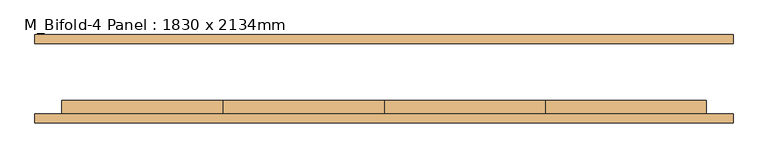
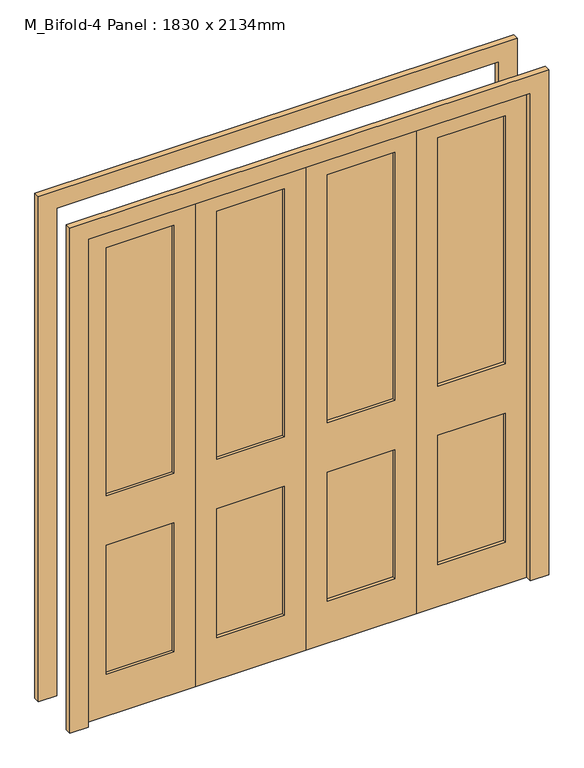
"""IFC4 building model written with IfcOpenShell, lengths in millimetres: door geometry, M_Bifold-4 Panel : 1830 x 2134mm."""

import ifcopenshell
import ifcopenshell.guid

model = None  # the IFC model being written
_history = None  # IfcOwnerHistory: only IFC2X3 demands one
_inside = {}  # id of a spatial element -> (the spatial element, [elements in it])
_under = {}  # id of a project, library or spatial element -> (it, [spatial elements below it])
_declared = {}  # id of a project -> (the project, [libraries it declares])
_typed = {}  # id of a type object -> (the type object, [elements of that type])
_made_of = {}  # id of a material, layer set ... -> (it, [elements and type objects made of it])


def new_model(schema):
    """Start an empty IFC model of exactly this schema.

    Asked for "IFC4X3", IfcOpenShell would pick the latest addendum, in which some entities
    have other attributes; the version numbers below select the first issue.
    IFC2X3 requires an IfcOwnerHistory on every rooted entity: one is made here for all.
    """
    global model, _history
    if schema == "IFC4X3":
        model = ifcopenshell.file(schema_version=(4, 3, 0, 0))
    else:
        model = ifcopenshell.file(schema=schema)
    _inside.clear()
    _under.clear()
    _declared.clear()
    _typed.clear()
    _made_of.clear()
    _history = None
    if model.schema == "IFC2X3":
        org = make("IfcOrganization", Name="unknown")
        user = make(
            "IfcPersonAndOrganization",
            ThePerson=make("IfcPerson", FamilyName="unknown"),
            TheOrganization=org,
        )
        app = make(
            "IfcApplication",
            ApplicationDeveloper=org,
            Version="unknown",
            ApplicationFullName="unknown",
            ApplicationIdentifier="unknown",
        )
        _history = make(
            "IfcOwnerHistory",
            OwningUser=user,
            OwningApplication=app,
            ChangeAction="ADDED",
            CreationDate=0,
        )
    return model


def make(cls, **values):
    """One entity of the class cls with the attributes given. An attribute that is None is left unset."""
    return model.create_entity(
        cls, **{name: value for name, value in values.items() if value is not None}
    )


def rooted(cls, **values):
    """An entity with a GlobalId (a new one), such as an element, a storey or a relation."""
    return make(cls, GlobalId=ifcopenshell.guid.new(), OwnerHistory=_history, **values)


def si_unit(unit_type, name, prefix=None):
    """IfcSIUnit, for example si_unit("LENGTHUNIT", "METRE", prefix="MILLI")."""
    return make("IfcSIUnit", UnitType=unit_type, Prefix=prefix, Name=name)


def assignment(units):
    """IfcUnitAssignment: the units of a project."""
    return None if units is None else make("IfcUnitAssignment", Units=units)


def point(xyz):
    """IfcCartesianPoint."""
    return None if xyz is None else make("IfcCartesianPoint", Coordinates=xyz)


def direction(xyz):
    """IfcDirection."""
    return None if xyz is None else make("IfcDirection", DirectionRatios=xyz)


def frame(location, z_axis=None, x_axis=None):
    """IfcAxis2Placement3D, a coordinate frame: its origin and axes. An axis left out is left unset."""
    return make(
        "IfcAxis2Placement3D",
        Location=point(location),
        Axis=direction(z_axis),
        RefDirection=direction(x_axis),
    )


def origin():
    """The frame at (0, 0, 0) with its axes left unset."""
    return frame((0.0, 0.0, 0.0))


def place(relative_to, where):
    """IfcLocalPlacement: puts the frame where relative to a parent placement (None: the world)."""
    return make(
        "IfcLocalPlacement", PlacementRelTo=relative_to, RelativePlacement=where
    )


def context(
    kind, dimensions, precision=None, world=None, true_north=None, identifier=None
):
    """IfcGeometricRepresentationContext, for example the 3D "Model" context."""
    return make(
        "IfcGeometricRepresentationContext",
        ContextIdentifier=identifier,
        ContextType=kind,
        CoordinateSpaceDimension=dimensions,
        Precision=precision,
        WorldCoordinateSystem=world,
        TrueNorth=true_north,
    )


def project(units=None, contexts=None):
    """IfcProject with its units and contexts."""
    return rooted(
        "IfcProject",
        Name="project",
        RepresentationContexts=contexts,
        UnitsInContext=assignment(units),
    )


def spatial(cls, under=None, at=None, **own):
    """A site, building, storey or space (cls), placed at a placement, below another one or the project."""
    s = rooted(cls, ObjectPlacement=at, **own)
    if under is not None:
        _under.setdefault(under.id(), (under, []))[1].append(s)
    return s


def polyline(points):
    """IfcPolyline through the points."""
    return make("IfcPolyline", Points=[point(p) for p in points])


def outline(outer, holes=None, kind="AREA"):
    """IfcArbitraryClosedProfileDef: a profile drawn as a closed curve; with holes, ...WithVoids."""
    if holes is None:
        return make("IfcArbitraryClosedProfileDef", ProfileType=kind, OuterCurve=outer)
    return make(
        "IfcArbitraryProfileDefWithVoids",
        ProfileType=kind,
        OuterCurve=outer,
        InnerCurves=holes,
    )


def extrude(swept, where, along, depth):
    """IfcExtrudedAreaSolid: the profile swept, set in the frame where, extruded along a direction by depth."""
    return make(
        "IfcExtrudedAreaSolid",
        SweptArea=swept,
        Position=where,
        ExtrudedDirection=direction(along),
        Depth=depth,
    )


def shape(context_of_items, identifier, shape_type, items):
    """IfcShapeRepresentation: the items that make up one representation, for example the "Body"."""
    return make(
        "IfcShapeRepresentation",
        ContextOfItems=context_of_items,
        RepresentationIdentifier=identifier,
        RepresentationType=shape_type,
        Items=items,
    )


def source(mapping_origin, context_of_items, identifier, shape_type, items):
    """IfcRepresentationMap: a shape defined once, which mapped items show again and again."""
    return make(
        "IfcRepresentationMap",
        MappingOrigin=mapping_origin,
        MappedRepresentation=shape(context_of_items, identifier, shape_type, items),
    )


def transform(
    local_origin,
    x_axis=None,
    y_axis=None,
    z_axis=None,
    scale=None,
    scale2=None,
    scale3=None,
    uniform=True,
):
    """IfcCartesianTransformationOperator3D, or its non-uniform kind. x_axis, y_axis, z_axis: its Axis1, 2, 3."""
    if uniform:
        return make(
            "IfcCartesianTransformationOperator3D",
            Axis1=direction(x_axis),
            Axis2=direction(y_axis),
            LocalOrigin=point(local_origin),
            Scale=scale,
            Axis3=direction(z_axis),
        )
    return make(
        "IfcCartesianTransformationOperator3DnonUniform",
        Axis1=direction(x_axis),
        Axis2=direction(y_axis),
        LocalOrigin=point(local_origin),
        Scale=scale,
        Axis3=direction(z_axis),
        Scale2=scale2,
        Scale3=scale3,
    )


def mapped(mapping_source, mapping_target):
    """IfcMappedItem: shows the shape of a source again, moved by a transform."""
    return make(
        "IfcMappedItem", MappingSource=mapping_source, MappingTarget=mapping_target
    )


def made_of(thing, what):
    """Note that an element or type object is made of a material, layer set ...; save() writes the relation."""
    if what is not None:
        _made_of.setdefault(what.id(), (what, []))[1].append(thing)
    return thing


def element(
    cls,
    number,
    at=None,
    inside=None,
    cuts=None,
    type_object=None,
    material=None,
    context=None,
    identifier="Body",
    shape_type=None,
    held_by="IfcProductDefinitionShape",
    body=None,
    shapes=None,
    **own,
):
    """One element of the class cls, such as IfcWall. Its Tag is "e" and its number.

    at: its placement. inside: the storey or other place that contains it. cuts: it is an
    opening in that element (IfcRelVoidsElement). A single representation is given by context,
    identifier, shape_type and body (its items); several are given by shapes. held_by: the class
    of the entity that holds the representations. save() writes the other relations.
    """
    e = rooted(cls, Tag="e%d" % number, ObjectPlacement=at, **own)
    if body is not None:
        shapes = [shape(context, identifier, shape_type, body)]
    if shapes is not None:
        e.Representation = make(held_by, Representations=shapes)
    if inside is not None:
        _inside.setdefault(inside.id(), (inside, []))[1].append(e)
    if cuts is not None:
        rooted(
            "IfcRelVoidsElement", RelatingBuildingElement=cuts, RelatedOpeningElement=e
        )
    if type_object is not None:
        _typed.setdefault(type_object.id(), (type_object, []))[1].append(e)
    return made_of(e, material)


def aggregate(whole, parts):
    """IfcRelAggregates: a whole, such as a stair, and the parts it consists of."""
    return rooted("IfcRelAggregates", RelatingObject=whole, RelatedObjects=parts)


def save(model, path):
    """Write the relations noted so far, then the file.

    IfcRelAggregates (storeys below a building ...), IfcRelContainedInSpatialStructure (elements
    in a storey), IfcRelDefinesByType, IfcRelAssociatesMaterial and IfcRelDeclares: one each for
    every whole, place, type object, material and project.
    """
    for whole, parts in _under.values():
        aggregate(whole, parts)
    for where, things in _inside.values():
        rooted(
            "IfcRelContainedInSpatialStructure",
            RelatedElements=things,
            RelatingStructure=where,
        )
    for kind, things in _typed.values():
        rooted("IfcRelDefinesByType", RelatedObjects=things, RelatingType=kind)
    for what, things in _made_of.values():
        rooted("IfcRelAssociatesMaterial", RelatedObjects=things, RelatingMaterial=what)
    for by, libraries in _declared.values():
        rooted("IfcRelDeclares", RelatingContext=by, RelatedDefinitions=libraries)
    model.write(path)


def m_bifold_4_panel_1830_x_2134mm_4b6cec86(model_context):
    return source(origin(), model_context, "Body", "SweptSolid", [
        extrude(outline(polyline([(546.4, -87.3), (546.4, -74.6), (826.1, -74.6), (826.1, -87.3), (546.4, -87.3)])), frame((0.0, 0.0, 965.2), z_axis=(0.0, 0.0, 1.0), x_axis=(1.0, 0.0, 0.0)), (0.0, 0.0, 1.0), 1086.25),
        extrude(outline(polyline([(546.4, -87.3), (546.4, -74.6), (826.1, -74.6), (826.1, -87.3), (546.4, -87.3)])), frame((0.0, 0.0, 184.15), z_axis=(0.0, 0.0, 1.0), x_axis=(1.0, 0.0, 0.0)), (0.0, 0.0, 1.0), 565.15),
        extrude(outline(polyline([(88.9, -87.3), (88.9, -74.6), (368.6, -74.6), (368.6, -87.3), (88.9, -87.3)])), frame((0.0, 0.0, 965.2), z_axis=(0.0, 0.0, 1.0), x_axis=(1.0, 0.0, 0.0)), (0.0, 0.0, 1.0), 1086.25),
        extrude(outline(polyline([(88.9, -87.3), (88.9, -74.6), (368.6, -74.6), (368.6, -87.3), (88.9, -87.3)])), frame((0.0, 0.0, 184.15), z_axis=(0.0, 0.0, 1.0), x_axis=(1.0, 0.0, 0.0)), (0.0, 0.0, 1.0), 565.15),
        extrude(outline(polyline([(-368.6, -87.3), (-368.6, -74.6), (-88.9, -74.6), (-88.9, -87.3), (-368.6, -87.3)])), frame((0.0, 0.0, 184.15), z_axis=(0.0, 0.0, 1.0), x_axis=(1.0, 0.0, 0.0)), (0.0, 0.0, 1.0), 565.15),
        extrude(outline(polyline([(-368.6, -87.3), (-368.6, -74.6), (-88.9, -74.6), (-88.9, -87.3), (-368.6, -87.3)])), frame((0.0, 0.0, 965.2), z_axis=(0.0, 0.0, 1.0), x_axis=(1.0, 0.0, 0.0)), (0.0, 0.0, 1.0), 1086.25),
        extrude(outline(polyline([(-826.1, -87.3), (-826.1, -74.6), (-546.4, -74.6), (-546.4, -87.3), (-826.1, -87.3)])), frame((0.0, 0.0, 965.2), z_axis=(0.0, 0.0, 1.0), x_axis=(1.0, 0.0, 0.0)), (0.0, 0.0, 1.0), 1086.25),
        extrude(outline(polyline([(-826.1, -87.3), (-826.1, -74.6), (-546.4, -74.6), (-546.4, -87.3), (-826.1, -87.3)])), frame((0.0, 0.0, 184.15), z_axis=(0.0, 0.0, 1.0), x_axis=(1.0, 0.0, 0.0)), (0.0, 0.0, 1.0), 565.15),
        extrude(outline(polyline([(0.0, 991.0), (2210.0, 991.0), (2210.0, -991.0), (0.0, -991.0), (0.0, -915.0), (2134.0, -915.0), (2134.0, 915.0), (0.0, 915.0), (0.0, 991.0)])), frame((0.0, 100.0, 0.0), z_axis=(0.0, 1.0, 0.0), x_axis=(0.0, 0.0, 1.0)), (0.0, 0.0, 1.0), 25.4),
        extrude(outline(polyline([(0.0, 991.0), (2210.0, 991.0), (2210.0, -991.0), (0.0, -991.0), (0.0, -915.0), (2134.0, -915.0), (2134.0, 915.0), (0.0, 915.0), (0.0, 991.0)])), frame((0.0, -125.4, 0.0), z_axis=(0.0, 1.0, 0.0), x_axis=(0.0, 0.0, 1.0)), (0.0, 0.0, 1.0), 25.4),
        extrude(outline(polyline([(0.0, -915.0), (0.0, -457.5), (2134.0, -457.5), (2134.0, -915.0), (0.0, -915.0)]), holes=[polyline([(2051.45, -826.1), (2051.45, -546.4), (965.2, -546.4), (965.2, -826.1), (2051.45, -826.1)]), polyline([(749.3, -826.1), (749.3, -546.4), (184.15, -546.4), (184.15, -826.1), (749.3, -826.1)])]), frame((0.0, -100.0, 0.0), z_axis=(0.0, 1.0, 0.0), x_axis=(0.0, 0.0, 1.0)), (0.0, 0.0, 1.0), 38.1),
        extrude(outline(polyline([(0.0, -457.5), (0.0, 0.0), (2134.0, 0.0), (2134.0, -457.5), (0.0, -457.5)]), holes=[polyline([(2051.45, -368.6), (2051.45, -88.9), (965.2, -88.9), (965.2, -368.6), (2051.45, -368.6)]), polyline([(749.3, -368.6), (749.3, -88.9), (184.15, -88.9), (184.15, -368.6), (749.3, -368.6)])]), frame((0.0, -100.0, 0.0), z_axis=(0.0, 1.0, 0.0), x_axis=(0.0, 0.0, 1.0)), (0.0, 0.0, 1.0), 38.1),
        extrude(outline(polyline([(0.0, 0.0), (0.0, 457.5), (2134.0, 457.5), (2134.0, 0.0), (0.0, 0.0)]), holes=[polyline([(2051.45, 88.9), (2051.45, 368.6), (965.2, 368.6), (965.2, 88.9), (2051.45, 88.9)]), polyline([(749.3, 88.9), (749.3, 368.6), (184.15, 368.6), (184.15, 88.9), (749.3, 88.9)])]), frame((0.0, -100.0, 0.0), z_axis=(0.0, 1.0, 0.0), x_axis=(0.0, 0.0, 1.0)), (0.0, 0.0, 1.0), 38.1),
        extrude(outline(polyline([(0.0, 457.5), (0.0, 915.0), (2134.0, 915.0), (2134.0, 457.5), (0.0, 457.5)]), holes=[polyline([(2051.45, 546.4), (2051.45, 826.1), (965.2, 826.1), (965.2, 546.4), (2051.45, 546.4)]), polyline([(749.3, 546.4), (749.3, 826.1), (184.15, 826.1), (184.15, 546.4), (749.3, 546.4)])]), frame((0.0, -100.0, 0.0), z_axis=(0.0, 1.0, 0.0), x_axis=(0.0, 0.0, 1.0)), (0.0, 0.0, 1.0), 38.1),
    ])


if __name__ == "__main__":
    model = new_model("IFC4")
    model_context = context("Model", 3, world=origin())
    ifc_project = project(units=[si_unit("LENGTHUNIT", "METRE", prefix="MILLI")], contexts=[model_context])
    site = spatial("IfcSite", under=ifc_project)
    building = spatial("IfcBuilding", under=site)
    placement = place(None, origin())
    m_bifold_4_panel_1830_x_2134mm_shape = m_bifold_4_panel_1830_x_2134mm_4b6cec86(model_context)
    element("IfcDoor", 1, ObjectType="M_Bifold-4 Panel : 1830 x 2134mm", at=placement, inside=building, context=model_context, shape_type="MappedRepresentation", body=[
        mapped(m_bifold_4_panel_1830_x_2134mm_shape, transform((0.0, 0.0, 0.0), x_axis=(1.0, 0.0, 0.0), y_axis=(0.0, 1.0, 0.0), z_axis=(0.0, 0.0, 1.0))),
    ])
    save(model, "model.ifc")
